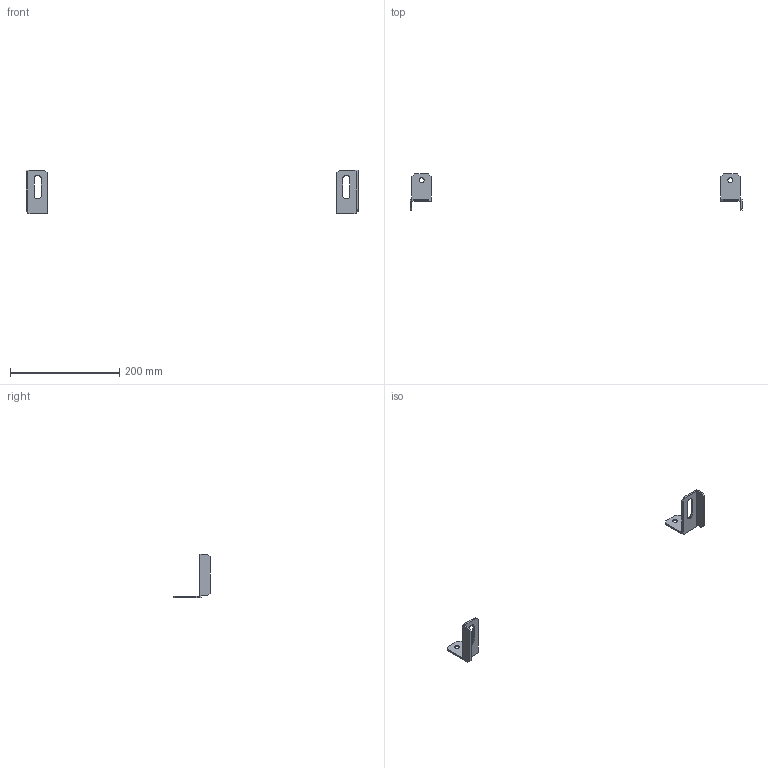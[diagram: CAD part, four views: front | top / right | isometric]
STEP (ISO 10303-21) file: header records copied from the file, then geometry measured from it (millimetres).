
FILE_DESCRIPTION(('Open CASCADE Model'),'2;1');
FILE_NAME('Open CASCADE Shape Model','2025-03-31T08:49:39',('Author'),( 'Open CASCADE'),'Open CASCADE STEP processor 7.8','Open CASCADE 7.8' ,'Unknown');
FILE_SCHEMA(('AUTOMOTIVE_DESIGN { 1 0 10303 214 1 1 1 1 }'));
Length unit declared in the file: millimetre
Products named in the file (3): Compound1; Solid1; Solid2
Assembly tree (2 placements, depth 2):
  Compound1
    Solid1
    Solid2
Bounding box: 606.6 x 67 x 80 mm (x, y, z)
Volume: 32524.7 mm3; surface area: 24566 mm2
Topology: 2 solids, 2 shells, 56 faces, 156 edges, 104 vertices
Faces by surface type: plane 50, cylinder 6
Full cylindrical faces by diameter (mm): 9 x2
Entity records: 1830 total; most frequent: CARTESIAN_POINT 321, ORIENTED_EDGE 312, DIRECTION 284, EDGE_CURVE 156, LINE 142, VECTOR 142, VERTEX_POINT 104, AXIS2_PLACEMENT_3D 71
